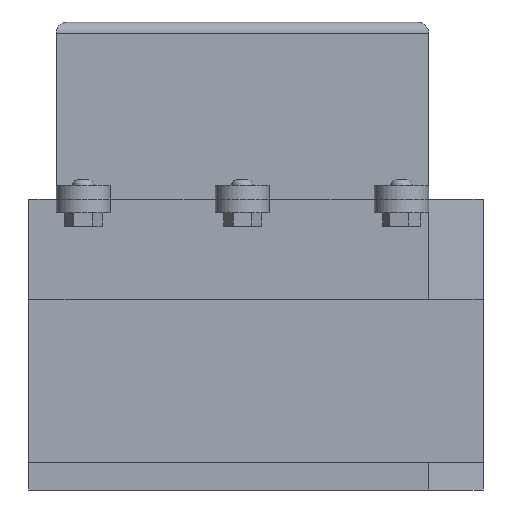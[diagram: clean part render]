
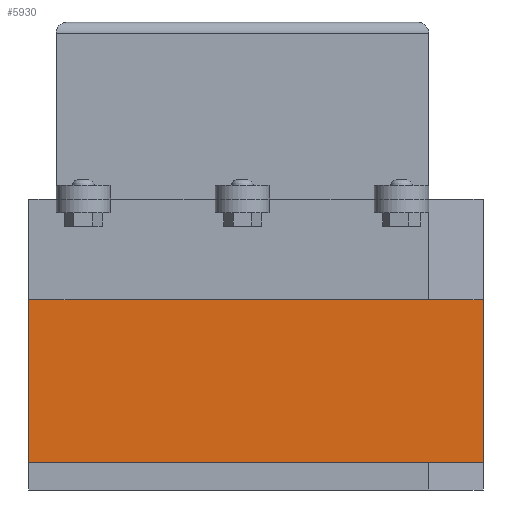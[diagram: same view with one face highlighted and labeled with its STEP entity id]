
A CAD part, front view. The second image highlights one B-rep face of the part: STEP entity #5930.
In plain terms, the highlighted planar face has unit normal (0, -1, 0).
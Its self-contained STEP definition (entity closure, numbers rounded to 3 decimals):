
#576=FACE_OUTER_BOUND('',#913,.T.);
#913=EDGE_LOOP('',(#5102,#5103,#5104,#5105));
#1440=LINE('',#9797,#2099);
#1479=LINE('',#9886,#2138);
#1495=LINE('',#9916,#2154);
#1534=LINE('',#10008,#2193);
#2099=VECTOR('',#7173,10.);
#2138=VECTOR('',#7234,10.);
#2154=VECTOR('',#7258,10.);
#2193=VECTOR('',#7365,10.);
#2706=VERTEX_POINT('',#9794);
#2707=VERTEX_POINT('',#9796);
#2746=VERTEX_POINT('',#9884);
#2756=VERTEX_POINT('',#9915);
#3474=EDGE_CURVE('',#2706,#2707,#1440,.T.);
#3519=EDGE_CURVE('',#2746,#2706,#1479,.T.);
#3535=EDGE_CURVE('',#2756,#2707,#1495,.T.);
#3580=EDGE_CURVE('',#2756,#2746,#1534,.T.);
#5102=ORIENTED_EDGE('',*,*,#3474,.F.);
#5103=ORIENTED_EDGE('',*,*,#3519,.F.);
#5104=ORIENTED_EDGE('',*,*,#3580,.F.);
#5105=ORIENTED_EDGE('',*,*,#3535,.T.);
#5589=PLANE('',#6252);
#5930=ADVANCED_FACE('',(#576),#5589,.F.);
#6252=AXIS2_PLACEMENT_3D('',#10007,#7363,#7364);
#7173=DIRECTION('',(0.,0.,-1.));
#7234=DIRECTION('',(1.,0.,0.));
#7258=DIRECTION('',(1.,0.,0.));
#7363=DIRECTION('center_axis',(0.,1.,0.));
#7364=DIRECTION('ref_axis',(0.,0.,1.));
#7365=DIRECTION('',(0.,0.,1.));
#9794=CARTESIAN_POINT('',(157.,30.,-37.));
#9796=CARTESIAN_POINT('',(157.,30.,-97.));
#9797=CARTESIAN_POINT('',(157.,30.,-48.5));
#9884=CARTESIAN_POINT('',(-10.,30.,-37.));
#9886=CARTESIAN_POINT('',(-10.,30.,-37.));
#9915=CARTESIAN_POINT('',(-10.,30.,-97.));
#9916=CARTESIAN_POINT('',(-10.,30.,-97.));
#10007=CARTESIAN_POINT('Origin',(-10.,30.,-97.));
#10008=CARTESIAN_POINT('',(-10.,30.,-48.5));
